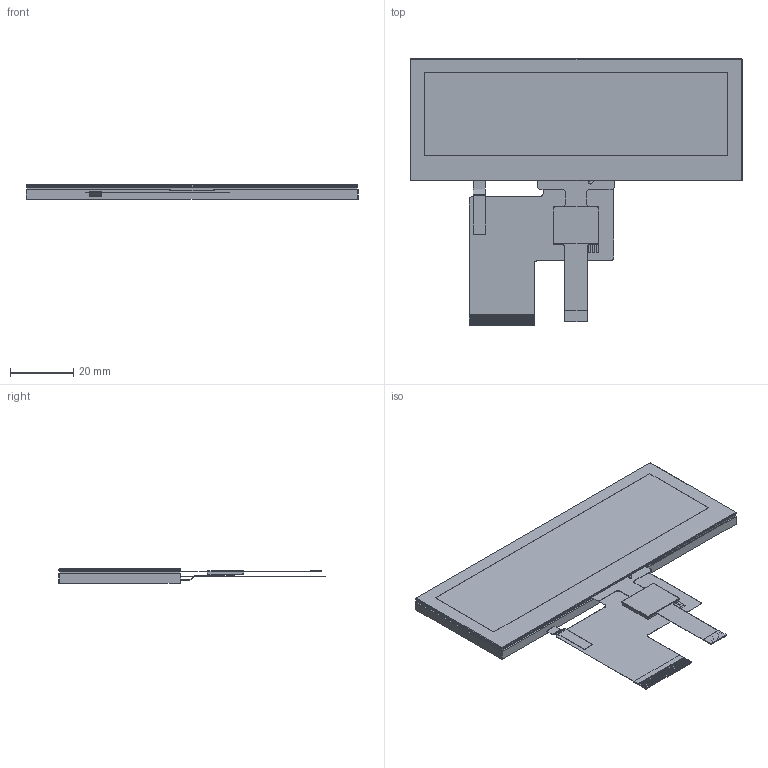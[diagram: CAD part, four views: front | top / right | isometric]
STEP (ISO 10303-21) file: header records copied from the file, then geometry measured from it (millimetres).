
FILE_DESCRIPTION (( 'STEP AP203' ), '1' );
FILE_NAME ('NHD-3.9-480128AF-ASXP-CTP.STEP', '2025-01-13T20:03:44', ( '' ), ( '' ), 'SwSTEP 2.0', 'SolidWorks 2019', '' );
FILE_SCHEMA (( 'CONFIG_CONTROL_DESIGN' ));
Length unit declared in the file: millimetre
Products named in the file (2): NHD-3.9-480128AF-ASXP-CTP
Bounding box: 104.9 x 84.2 x 4.53 mm (x, y, z)
Volume: 17523.7 mm3; surface area: 50020.7 mm2
Topology: 55 solids, 55 shells, 572 faces, 1356 edges, 904 vertices
Faces by surface type: plane 510, cylinder 51, cone 8, bspline 3
Entity records: 16503 total; most frequent: CARTESIAN_POINT 3124, ORIENTED_EDGE 2712, DIRECTION 2583, EDGE_CURVE 1356, VECTOR 1221, LINE 1221, VERTEX_POINT 904, AXIS2_PLACEMENT_3D 681
